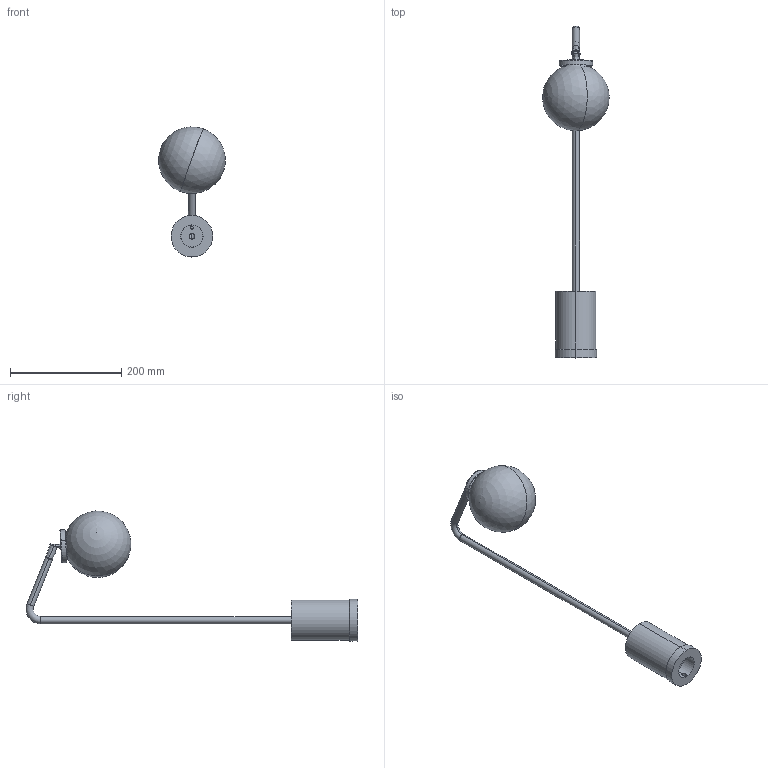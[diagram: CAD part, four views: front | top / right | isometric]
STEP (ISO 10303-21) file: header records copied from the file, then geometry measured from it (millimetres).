
FILE_DESCRIPTION (( 'STEP AP214' ), '1' );
FILE_NAME ('Array Table_Customer CAD.STEP', '2015-05-15T09:04:30', ( '' ), ( '' ), 'SwSTEP 2.0', 'SolidWorks 2012', '' );
FILE_SCHEMA (( 'AUTOMOTIVE_DESIGN' ));
Length unit declared in the file: millimetre
Products named in the file (9): arm bulb assembly_Customer CAD; Glass Ball; SLIM SPINNING (9MM)2; Walter Logan Part NR 450 A; Walter Logan Part NR 450 A (2); ARRAY TABLE LAMP ARM 2; ARRAY TABLE LAMP BASE BOSS FOR SINGLE ARM; Array Table_Customer CAD
Assembly tree (8 placements, depth 4):
  Array Table_Customer CAD
    ARRAY TABLE LAMP BASE BOSS FOR SINGLE ARM
    ARRAY TABLE LAMP ARM 2
    arm bulb assembly_Customer CAD
      Walter Logan Part NR 450 A
        Walter Logan Part NR 450 A
        Walter Logan Part NR 450 A (2)
      SLIM SPINNING (9MM)2
      Glass Ball
Bounding box: 119.63 x 596.98 x 233.8 mm (x, y, z)
Volume: 568749.5 mm3; surface area: 187526.2 mm2
Topology: 6 solids, 6 shells, 165 faces, 417 edges, 255 vertices
Faces by surface type: cylinder 61, torus 34, plane 28, bspline 21, sphere 12, cone 9
Entity records: 7563 total; most frequent: CARTESIAN_POINT 3409, DIRECTION 841, ORIENTED_EDGE 782, EDGE_CURVE 391, AXIS2_PLACEMENT_3D 377, VERTEX_POINT 240, CIRCLE 221, EDGE_LOOP 191
